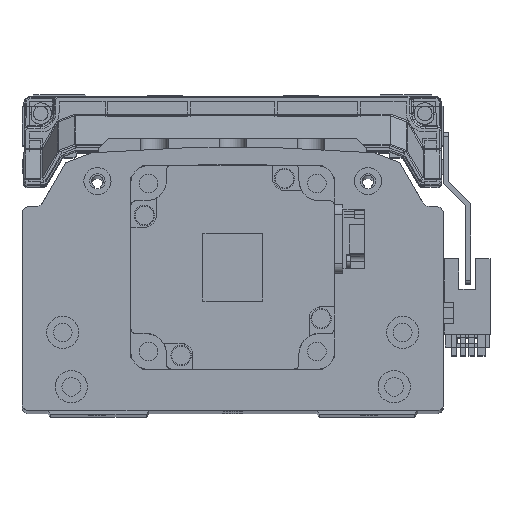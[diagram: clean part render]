
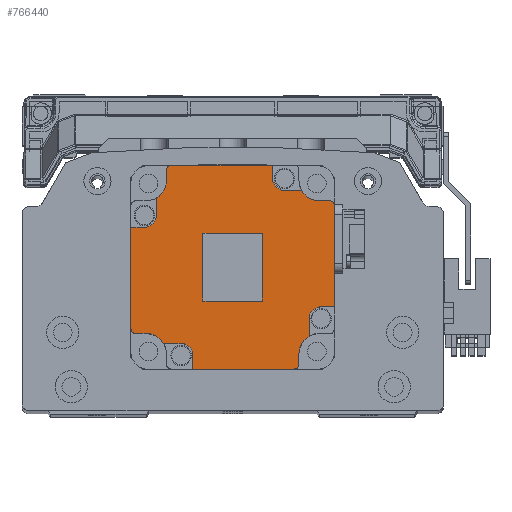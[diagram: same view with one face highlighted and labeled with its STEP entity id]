
A CAD part, top view. The second image highlights one B-rep face of the part: STEP entity #766440.
In plain terms, the highlighted planar face has unit normal (0, 0, 1) as drawn and (0, 0, -1) by its records, which use the part's own axes.
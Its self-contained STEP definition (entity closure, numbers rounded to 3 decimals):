
#763670=CARTESIAN_POINT('',(30.,-30.,-80.));
#763680=DIRECTION('',(0.,0.,-1.));
#763690=DIRECTION('',(-1.,0.,0.));
#763700=AXIS2_PLACEMENT_3D('',#763670,#763680,#763690);
#763710=PLANE('',#763700);
#763720=CARTESIAN_POINT('',(10.,-30.,-80.));
#763730=DIRECTION('',(0.,1.,0.));
#763740=VECTOR('',#763730,1000.);
#763750=LINE('',#763720,#763740);
#763760=CARTESIAN_POINT('',(10.,-8.75,-80.));
#763770=VERTEX_POINT('',#763760);
#763780=CARTESIAN_POINT('',(10.,8.75,-80.));
#763790=VERTEX_POINT('',#763780);
#763800=EDGE_CURVE('',#763770,#763790,#763750,.T.);
#763810=ORIENTED_EDGE('',*,*,#763800,.T.);
#763820=CARTESIAN_POINT('',(30.,-8.75,-80.));
#763830=DIRECTION('',(1.,-0.,0.));
#763840=VECTOR('',#763830,1000.);
#763850=LINE('',#763820,#763840);
#763860=CARTESIAN_POINT('',(-10.,-8.75,-80.));
#763870=VERTEX_POINT('',#763860);
#763880=EDGE_CURVE('',#763870,#763770,#763850,.T.);
#763890=ORIENTED_EDGE('',*,*,#763880,.T.);
#763900=CARTESIAN_POINT('',(-10.,-30.,-80.));
#763910=DIRECTION('',(-0.,-1.,-0.));
#763920=VECTOR('',#763910,1000.);
#763930=LINE('',#763900,#763920);
#763940=CARTESIAN_POINT('',(-10.,8.75,-80.));
#763950=VERTEX_POINT('',#763940);
#763960=EDGE_CURVE('',#763950,#763870,#763930,.T.);
#763970=ORIENTED_EDGE('',*,*,#763960,.T.);
#763980=CARTESIAN_POINT('',(30.,8.75,-80.));
#763990=DIRECTION('',(-1.,0.,-0.));
#764000=VECTOR('',#763990,1000.);
#764010=LINE('',#763980,#764000);
#764020=EDGE_CURVE('',#763790,#763950,#764010,.T.);
#764030=ORIENTED_EDGE('',*,*,#764020,.T.);
#764040=EDGE_LOOP('',(#764030,#763970,#763890,#763810));
#764050=FACE_BOUND('',#764040,.T.);
#764060=CARTESIAN_POINT('',(18.,28.5,-80.));
#764070=DIRECTION('',(0.,0.,-1.));
#764080=DIRECTION('',(-1.,0.,0.));
#764090=AXIS2_PLACEMENT_3D('',#764060,#764070,#764080);
#764100=CIRCLE('',#764090,1.5);
#764110=CARTESIAN_POINT('',(18.,30.,-80.));
#764120=VERTEX_POINT('',#764110);
#764130=CARTESIAN_POINT('',(19.5,28.5,-80.));
#764140=VERTEX_POINT('',#764130);
#764150=EDGE_CURVE('',#764120,#764140,#764100,.T.);
#764160=ORIENTED_EDGE('',*,*,#764150,.T.);
#764170=CARTESIAN_POINT('',(30.,30.,-80.));
#764180=DIRECTION('',(1.,-0.,0.));
#764190=VECTOR('',#764180,1000.);
#764200=LINE('',#764170,#764190);
#764210=CARTESIAN_POINT('',(-11.7,30.,-80.));
#764220=VERTEX_POINT('',#764210);
#764230=EDGE_CURVE('',#764220,#764120,#764200,.T.);
#764240=ORIENTED_EDGE('',*,*,#764230,.T.);
#764250=CARTESIAN_POINT('',(-11.7,-30.,-80.));
#764260=DIRECTION('',(0.,1.,0.));
#764270=VECTOR('',#764260,1000.);
#764280=LINE('',#764250,#764270);
#764290=CARTESIAN_POINT('',(-11.7,26.,-80.));
#764300=VERTEX_POINT('',#764290);
#764310=EDGE_CURVE('',#764300,#764220,#764280,.T.);
#764320=ORIENTED_EDGE('',*,*,#764310,.T.);
#764330=CARTESIAN_POINT('',(-15.2,26.,-80.));
#764340=DIRECTION('',(-0.,-0.,1.));
#764350=DIRECTION('',(-1.,0.,0.));
#764360=AXIS2_PLACEMENT_3D('',#764330,#764340,#764350);
#764370=CIRCLE('',#764360,3.5);
#764380=CARTESIAN_POINT('',(-15.2,22.5,-80.));
#764390=VERTEX_POINT('',#764380);
#764400=EDGE_CURVE('',#764390,#764300,#764370,.T.);
#764410=ORIENTED_EDGE('',*,*,#764400,.T.);
#764420=CARTESIAN_POINT('',(30.,22.5,-80.));
#764430=DIRECTION('',(1.,-0.,0.));
#764440=VECTOR('',#764430,1000.);
#764450=LINE('',#764420,#764440);
#764460=CARTESIAN_POINT('',(-20.304,22.5,-80.));
#764470=VERTEX_POINT('',#764460);
#764480=EDGE_CURVE('',#764470,#764390,#764450,.T.);
#764490=ORIENTED_EDGE('',*,*,#764480,.T.);
#764500=CARTESIAN_POINT('',(-25.5,25.5,-80.));
#764510=DIRECTION('',(-0.,-0.,1.));
#764520=DIRECTION('',(-1.,0.,0.));
#764530=AXIS2_PLACEMENT_3D('',#764500,#764510,#764520);
#764540=CIRCLE('',#764530,6.);
#764550=CARTESIAN_POINT('',(-25.5,19.5,-80.));
#764560=VERTEX_POINT('',#764550);
#764570=EDGE_CURVE('',#764560,#764470,#764540,.T.);
#764580=ORIENTED_EDGE('',*,*,#764570,.T.);
#764590=CARTESIAN_POINT('',(30.,19.5,-80.));
#764600=DIRECTION('',(1.,-0.,0.));
#764610=VECTOR('',#764600,1000.);
#764620=LINE('',#764590,#764610);
#764630=CARTESIAN_POINT('',(-28.5,19.5,-80.));
#764640=VERTEX_POINT('',#764630);
#764650=EDGE_CURVE('',#764640,#764560,#764620,.T.);
#764660=ORIENTED_EDGE('',*,*,#764650,.T.);
#764670=CARTESIAN_POINT('',(-28.5,18.,-80.));
#764680=DIRECTION('',(0.,0.,-1.));
#764690=DIRECTION('',(-1.,0.,0.));
#764700=AXIS2_PLACEMENT_3D('',#764670,#764680,#764690);
#764710=CIRCLE('',#764700,1.5);
#764720=CARTESIAN_POINT('',(-30.,18.,-80.));
#764730=VERTEX_POINT('',#764720);
#764740=EDGE_CURVE('',#764730,#764640,#764710,.T.);
#764750=ORIENTED_EDGE('',*,*,#764740,.T.);
#764760=CARTESIAN_POINT('',(-30.,-30.,-80.));
#764770=DIRECTION('',(0.,1.,0.));
#764780=VECTOR('',#764770,1000.);
#764790=LINE('',#764760,#764780);
#764800=CARTESIAN_POINT('',(-30.,-11.7,-80.));
#764810=VERTEX_POINT('',#764800);
#764820=EDGE_CURVE('',#764810,#764730,#764790,.T.);
#764830=ORIENTED_EDGE('',*,*,#764820,.T.);
#764840=CARTESIAN_POINT('',(30.,-11.7,-80.));
#764850=DIRECTION('',(-1.,0.,-0.));
#764860=VECTOR('',#764850,1000.);
#764870=LINE('',#764840,#764860);
#764880=CARTESIAN_POINT('',(-26.,-11.7,-80.));
#764890=VERTEX_POINT('',#764880);
#764900=EDGE_CURVE('',#764890,#764810,#764870,.T.);
#764910=ORIENTED_EDGE('',*,*,#764900,.T.);
#764920=CARTESIAN_POINT('',(-26.,-15.2,-80.));
#764930=DIRECTION('',(-0.,-0.,1.));
#764940=DIRECTION('',(-1.,0.,0.));
#764950=AXIS2_PLACEMENT_3D('',#764920,#764930,#764940);
#764960=CIRCLE('',#764950,3.5);
#764970=CARTESIAN_POINT('',(-22.5,-15.2,-80.));
#764980=VERTEX_POINT('',#764970);
#764990=EDGE_CURVE('',#764980,#764890,#764960,.T.);
#765000=ORIENTED_EDGE('',*,*,#764990,.T.);
#765010=CARTESIAN_POINT('',(-22.5,-30.,-80.));
#765020=DIRECTION('',(0.,1.,0.));
#765030=VECTOR('',#765020,1000.);
#765040=LINE('',#765010,#765030);
#765050=CARTESIAN_POINT('',(-22.5,-20.304,-80.));
#765060=VERTEX_POINT('',#765050);
#765070=EDGE_CURVE('',#765060,#764980,#765040,.T.);
#765080=ORIENTED_EDGE('',*,*,#765070,.T.);
#765090=CARTESIAN_POINT('',(-25.5,-25.5,-80.));
#765100=DIRECTION('',(-0.,-0.,1.));
#765110=DIRECTION('',(-1.,0.,0.));
#765120=AXIS2_PLACEMENT_3D('',#765090,#765100,#765110);
#765130=CIRCLE('',#765120,6.);
#765140=CARTESIAN_POINT('',(-19.5,-25.5,-80.));
#765150=VERTEX_POINT('',#765140);
#765160=EDGE_CURVE('',#765150,#765060,#765130,.T.);
#765170=ORIENTED_EDGE('',*,*,#765160,.T.);
#765180=CARTESIAN_POINT('',(-19.5,-30.,-80.));
#765190=DIRECTION('',(0.,1.,0.));
#765200=VECTOR('',#765190,1000.);
#765210=LINE('',#765180,#765200);
#765220=CARTESIAN_POINT('',(-19.5,-28.5,-80.));
#765230=VERTEX_POINT('',#765220);
#765240=EDGE_CURVE('',#765230,#765150,#765210,.T.);
#765250=ORIENTED_EDGE('',*,*,#765240,.T.);
#765260=CARTESIAN_POINT('',(-18.,-28.5,-80.));
#765270=DIRECTION('',(0.,0.,-1.));
#765280=DIRECTION('',(-1.,0.,0.));
#765290=AXIS2_PLACEMENT_3D('',#765260,#765270,#765280);
#765300=CIRCLE('',#765290,1.5);
#765310=CARTESIAN_POINT('',(-18.,-30.,-80.));
#765320=VERTEX_POINT('',#765310);
#765330=EDGE_CURVE('',#765320,#765230,#765300,.T.);
#765340=ORIENTED_EDGE('',*,*,#765330,.T.);
#765350=CARTESIAN_POINT('',(30.,-30.,-80.));
#765360=DIRECTION('',(-1.,0.,-0.));
#765370=VECTOR('',#765360,1000.);
#765380=LINE('',#765350,#765370);
#765390=CARTESIAN_POINT('',(11.7,-30.,-80.));
#765400=VERTEX_POINT('',#765390);
#765410=EDGE_CURVE('',#765400,#765320,#765380,.T.);
#765420=ORIENTED_EDGE('',*,*,#765410,.T.);
#765430=CARTESIAN_POINT('',(11.7,-30.,-80.));
#765440=DIRECTION('',(-0.,-1.,-0.));
#765450=VECTOR('',#765440,1000.);
#765460=LINE('',#765430,#765450);
#765470=CARTESIAN_POINT('',(11.7,-26.,-80.));
#765480=VERTEX_POINT('',#765470);
#765490=EDGE_CURVE('',#765480,#765400,#765460,.T.);
#765500=ORIENTED_EDGE('',*,*,#765490,.T.);
#765510=CARTESIAN_POINT('',(15.2,-26.,-80.));
#765520=DIRECTION('',(-0.,-0.,1.));
#765530=DIRECTION('',(-1.,0.,0.));
#765540=AXIS2_PLACEMENT_3D('',#765510,#765520,#765530);
#765550=CIRCLE('',#765540,3.5);
#765560=CARTESIAN_POINT('',(15.2,-22.5,-80.));
#765570=VERTEX_POINT('',#765560);
#765580=EDGE_CURVE('',#765570,#765480,#765550,.T.);
#765590=ORIENTED_EDGE('',*,*,#765580,.T.);
#765600=CARTESIAN_POINT('',(30.,-22.5,-80.));
#765610=DIRECTION('',(-1.,0.,-0.));
#765620=VECTOR('',#765610,1000.);
#765630=LINE('',#765600,#765620);
#765640=CARTESIAN_POINT('',(20.304,-22.5,-80.));
#765650=VERTEX_POINT('',#765640);
#765660=EDGE_CURVE('',#765650,#765570,#765630,.T.);
#765670=ORIENTED_EDGE('',*,*,#765660,.T.);
#765680=CARTESIAN_POINT('',(25.5,-25.5,-80.));
#765690=DIRECTION('',(-0.,-0.,1.));
#765700=DIRECTION('',(-1.,0.,0.));
#765710=AXIS2_PLACEMENT_3D('',#765680,#765690,#765700);
#765720=CIRCLE('',#765710,6.);
#765730=CARTESIAN_POINT('',(25.5,-19.5,-80.));
#765740=VERTEX_POINT('',#765730);
#765750=EDGE_CURVE('',#765740,#765650,#765720,.T.);
#765760=ORIENTED_EDGE('',*,*,#765750,.T.);
#765770=CARTESIAN_POINT('',(30.,-19.5,-80.));
#765780=DIRECTION('',(-1.,0.,-0.));
#765790=VECTOR('',#765780,1000.);
#765800=LINE('',#765770,#765790);
#765810=CARTESIAN_POINT('',(28.5,-19.5,-80.));
#765820=VERTEX_POINT('',#765810);
#765830=EDGE_CURVE('',#765820,#765740,#765800,.T.);
#765840=ORIENTED_EDGE('',*,*,#765830,.T.);
#765850=CARTESIAN_POINT('',(28.5,-18.,-80.));
#765860=DIRECTION('',(0.,0.,-1.));
#765870=DIRECTION('',(-1.,0.,0.));
#765880=AXIS2_PLACEMENT_3D('',#765850,#765860,#765870);
#765890=CIRCLE('',#765880,1.5);
#765900=CARTESIAN_POINT('',(30.,-18.,-80.));
#765910=VERTEX_POINT('',#765900);
#765920=EDGE_CURVE('',#765910,#765820,#765890,.T.);
#765930=ORIENTED_EDGE('',*,*,#765920,.T.);
#765940=CARTESIAN_POINT('',(30.,-30.,-80.));
#765950=DIRECTION('',(-0.,-1.,-0.));
#765960=VECTOR('',#765950,1000.);
#765970=LINE('',#765940,#765960);
#765980=CARTESIAN_POINT('',(30.,11.7,-80.));
#765990=VERTEX_POINT('',#765980);
#766000=EDGE_CURVE('',#765990,#765910,#765970,.T.);
#766010=ORIENTED_EDGE('',*,*,#766000,.T.);
#766020=CARTESIAN_POINT('',(30.,11.7,-80.));
#766030=DIRECTION('',(1.,-0.,0.));
#766040=VECTOR('',#766030,1000.);
#766050=LINE('',#766020,#766040);
#766060=CARTESIAN_POINT('',(26.,11.7,-80.));
#766070=VERTEX_POINT('',#766060);
#766080=EDGE_CURVE('',#766070,#765990,#766050,.T.);
#766090=ORIENTED_EDGE('',*,*,#766080,.T.);
#766100=CARTESIAN_POINT('',(26.,15.2,-80.));
#766110=DIRECTION('',(-0.,-0.,1.));
#766120=DIRECTION('',(-1.,0.,0.));
#766130=AXIS2_PLACEMENT_3D('',#766100,#766110,#766120);
#766140=CIRCLE('',#766130,3.5);
#766150=CARTESIAN_POINT('',(22.5,15.2,-80.));
#766160=VERTEX_POINT('',#766150);
#766170=EDGE_CURVE('',#766160,#766070,#766140,.T.);
#766180=ORIENTED_EDGE('',*,*,#766170,.T.);
#766190=CARTESIAN_POINT('',(22.5,-30.,-80.));
#766200=DIRECTION('',(-0.,-1.,-0.));
#766210=VECTOR('',#766200,1000.);
#766220=LINE('',#766190,#766210);
#766230=CARTESIAN_POINT('',(22.5,20.304,-80.));
#766240=VERTEX_POINT('',#766230);
#766250=EDGE_CURVE('',#766240,#766160,#766220,.T.);
#766260=ORIENTED_EDGE('',*,*,#766250,.T.);
#766270=CARTESIAN_POINT('',(25.5,25.5,-80.));
#766280=DIRECTION('',(-0.,-0.,1.));
#766290=DIRECTION('',(-1.,0.,0.));
#766300=AXIS2_PLACEMENT_3D('',#766270,#766280,#766290);
#766310=CIRCLE('',#766300,6.);
#766320=CARTESIAN_POINT('',(19.5,25.5,-80.));
#766330=VERTEX_POINT('',#766320);
#766340=EDGE_CURVE('',#766330,#766240,#766310,.T.);
#766350=ORIENTED_EDGE('',*,*,#766340,.T.);
#766360=CARTESIAN_POINT('',(19.5,-30.,-80.));
#766370=DIRECTION('',(-0.,-1.,-0.));
#766380=VECTOR('',#766370,1000.);
#766390=LINE('',#766360,#766380);
#766400=EDGE_CURVE('',#764140,#766330,#766390,.T.);
#766410=ORIENTED_EDGE('',*,*,#766400,.T.);
#766420=EDGE_LOOP('',(#766410,#766350,#766260,#766180,#766090,#766010,
#765930,#765840,#765760,#765670,#765590,#765500,#765420,#765340,#765250,
#765170,#765080,#765000,#764910,#764830,#764750,#764660,#764580,#764490,
#764410,#764320,#764240,#764160));
#766430=FACE_OUTER_BOUND('',#766420,.T.);
#766440=ADVANCED_FACE('',(#764050,#766430),#763710,.T.);
